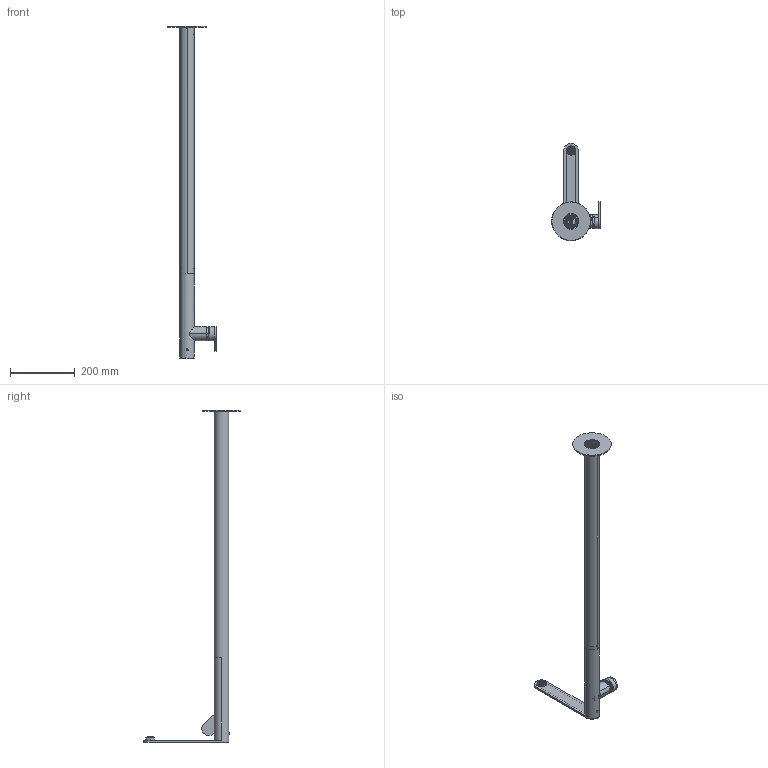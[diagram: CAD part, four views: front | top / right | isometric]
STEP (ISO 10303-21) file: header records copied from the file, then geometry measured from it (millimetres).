
FILE_DESCRIPTION((''),'2;1');
FILE_NAME('7959521_SW0001','2026-10-05T14:45:56',('carloff'),(''),'CREO PARAMETRIC BY PTC INC, 2025443','CREO PARAMETRIC BY PTC INC, 2025443','');
FILE_SCHEMA(('CONFIG_CONTROL_DESIGN'));
Products named in the file (1): 7959521_SW0001
Bounding box: 150.1 x 302.5 x 1025 mm (x, y, z)
Volume: 628515.3 mm3; surface area: 515758.8 mm2
Topology: 5 solids, 5 shells, 4871 faces, 12536 edges, 8057 vertices
Faces by surface type: plane 3418, cylinder 755, cone 625, torus 38, bspline 22, sphere 13
Entity records: 185620 total; most frequent: CARTESIAN_POINT 78211, ORIENTED_EDGE 25036, DIRECTION 17414, EDGE_CURVE 12518, VERTEX_POINT 8057, AXIS2_PLACEMENT_3D 6012, B_SPLINE_CURVE_WITH_KNOTS 5965, VECTOR 5390
